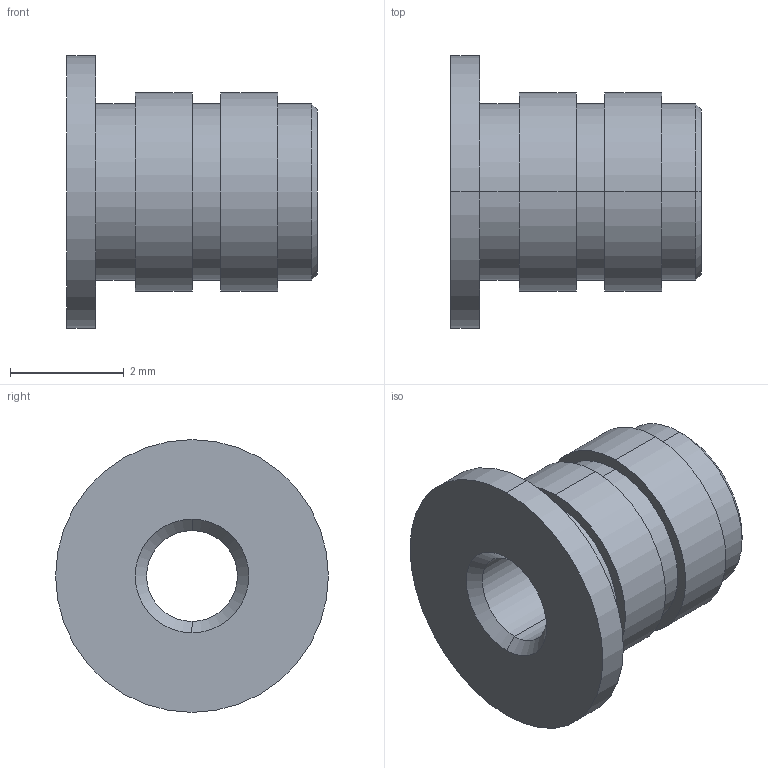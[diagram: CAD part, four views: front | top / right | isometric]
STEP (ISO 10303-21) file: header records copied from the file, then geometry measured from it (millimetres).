
FILE_DESCRIPTION (( 'STEP AP203' ), '1' );
FILE_NAME ('FSUK-HIHLH-M02-S.STEP', '2021-04-15T12:52:28', ( '' ), ( '' ), 'SwSTEP 2.0', 'SolidWorks 2021', '' );
FILE_SCHEMA (( 'CONFIG_CONTROL_DESIGN' ));
Length unit declared in the file: millimetre
Products named in the file (1): FSUK-HIHLH-M02-S
Bounding box: 4.41 x 4.8 x 4.8 mm (x, y, z)
Volume: 33.7 mm3; surface area: 109.2 mm2
Topology: 1 solids, 1 shells, 27 faces, 54 edges, 34 vertices
Faces by surface type: cylinder 14, plane 7, cone 6
Entity records: 795 total; most frequent: DIRECTION 144, CARTESIAN_POINT 116, ORIENTED_EDGE 108, AXIS2_PLACEMENT_3D 62, EDGE_CURVE 54, CIRCLE 34, EDGE_LOOP 34, VERTEX_POINT 34
